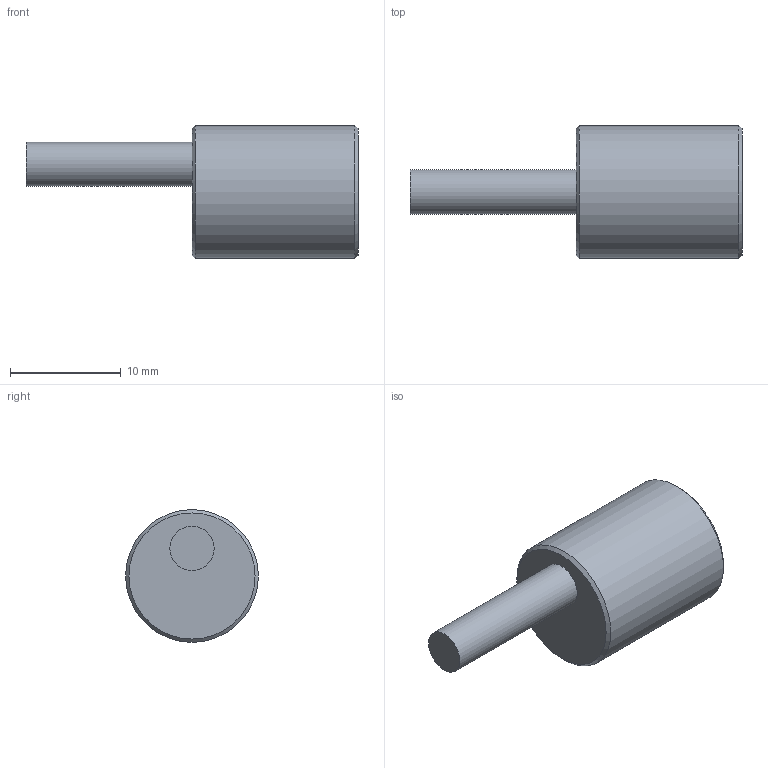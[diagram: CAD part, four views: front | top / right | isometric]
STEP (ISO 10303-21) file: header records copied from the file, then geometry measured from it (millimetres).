
FILE_DESCRIPTION((''),'2;1');
FILE_NAME('J:\Projekte\Kunststoff-Blechteile\Zeichnungen\Bibliothek Inventor\3D Solids\dbk+4\STP\dbk+4-Sender_M12_KX.stp','2010-01-28T13:48:08',('Oliver Liedtke'),(''),'Autodesk Inventor 2009','Autodesk Inventor 2009','');
FILE_SCHEMA(('AUTOMOTIVE_DESIGN { 1 0 10303 214 1 1 1 1 }'));
Length unit declared in the file: millimetre
Products named in the file (1): dbk+4-Sender_M12_KX
Bounding box: 30 x 12 x 12 mm (x, y, z)
Volume: 1881.3 mm3; surface area: 967.3 mm2
Topology: 1 solids, 1 shells, 11 faces, 16 edges, 10 vertices
Faces by surface type: plane 5, cylinder 4, cone 2
Full cylindrical faces by diameter (mm): 4 x1, 7.6 x1, 10.2 x1, 12 x1
Entity records: 276 total; most frequent: DIRECTION 44, CARTESIAN_POINT 32, AXIS2_PLACEMENT_3D 22, ORIENTED_EDGE 20, EDGE_LOOP 20, FACE_OUTER_BOUND 11, ADVANCED_FACE 11, VERTEX_POINT 10
